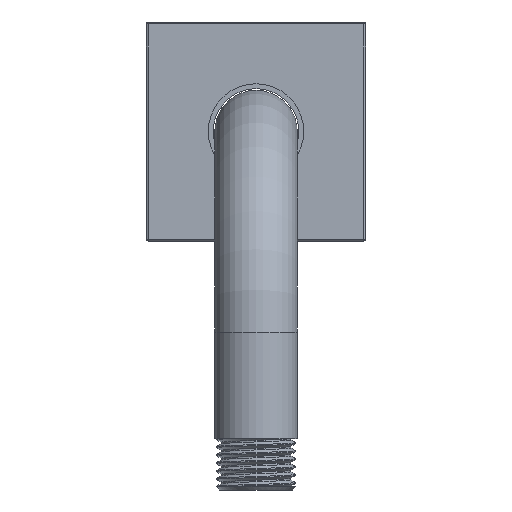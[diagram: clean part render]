
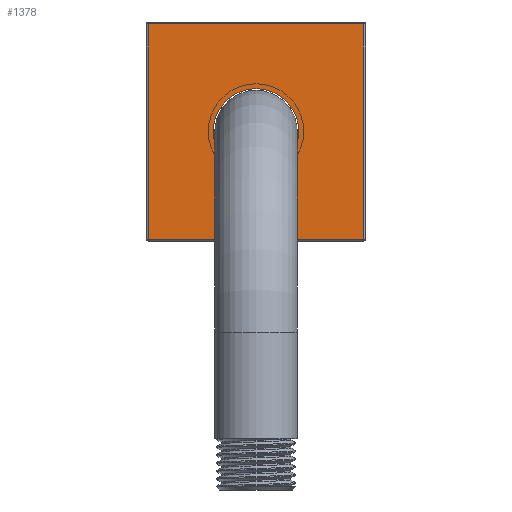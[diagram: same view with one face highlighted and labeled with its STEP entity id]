
A CAD part, front view. The second image highlights one B-rep face of the part: STEP entity #1378.
In plain terms, the highlighted planar face has unit normal (0, -1, 0).
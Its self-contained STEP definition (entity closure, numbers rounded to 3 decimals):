
#175=FACE_BOUND('',#277,.T.);
#188=FACE_OUTER_BOUND('',#276,.T.);
#276=EDGE_LOOP('',(#958,#959,#960,#961));
#277=EDGE_LOOP('',(#962,#963));
#366=LINE('',#2036,#432);
#367=LINE('',#2038,#433);
#368=LINE('',#2040,#434);
#369=LINE('',#2041,#435);
#432=VECTOR('',#1679,54.);
#433=VECTOR('',#1680,54.);
#434=VECTOR('',#1681,54.);
#435=VECTOR('',#1682,54.);
#508=CIRCLE('',#1494,10.75);
#509=CIRCLE('',#1495,10.75);
#578=VERTEX_POINT('',#2028);
#579=VERTEX_POINT('',#2030);
#580=VERTEX_POINT('',#2034);
#581=VERTEX_POINT('',#2035);
#582=VERTEX_POINT('',#2037);
#583=VERTEX_POINT('',#2039);
#725=EDGE_CURVE('',#578,#579,#508,.T.);
#726=EDGE_CURVE('',#579,#578,#509,.T.);
#727=EDGE_CURVE('',#580,#581,#366,.T.);
#728=EDGE_CURVE('',#581,#582,#367,.T.);
#729=EDGE_CURVE('',#582,#583,#368,.T.);
#730=EDGE_CURVE('',#583,#580,#369,.T.);
#958=ORIENTED_EDGE('',*,*,#727,.T.);
#959=ORIENTED_EDGE('',*,*,#728,.T.);
#960=ORIENTED_EDGE('',*,*,#729,.T.);
#961=ORIENTED_EDGE('',*,*,#730,.T.);
#962=ORIENTED_EDGE('',*,*,#726,.F.);
#963=ORIENTED_EDGE('',*,*,#725,.F.);
#1359=PLANE('',#1496);
#1378=ADVANCED_FACE('',(#188,#175),#1359,.T.);
#1494=AXIS2_PLACEMENT_3D('',#2031,#1673,#1674);
#1495=AXIS2_PLACEMENT_3D('',#2032,#1675,#1676);
#1496=AXIS2_PLACEMENT_3D('',#2033,#1677,#1678);
#1673=DIRECTION('center_axis',(0.,-1.,0.));
#1674=DIRECTION('ref_axis',(1.,0.,0.));
#1675=DIRECTION('center_axis',(0.,-1.,0.));
#1676=DIRECTION('ref_axis',(1.,0.,0.));
#1677=DIRECTION('center_axis',(0.,-1.,0.));
#1678=DIRECTION('ref_axis',(-1.,0.,0.));
#1679=DIRECTION('',(0.,0.,1.));
#1680=DIRECTION('',(-1.,0.,0.));
#1681=DIRECTION('',(0.,0.,-1.));
#1682=DIRECTION('',(1.,0.,0.));
#2028=CARTESIAN_POINT('',(112.75,-93.9,1117.57));
#2030=CARTESIAN_POINT('',(91.25,-93.9,1117.57));
#2031=CARTESIAN_POINT('Origin',(102.,-93.9,1117.57));
#2032=CARTESIAN_POINT('Origin',(102.,-93.9,1117.57));
#2033=CARTESIAN_POINT('Origin',(102.,-93.9,1117.57));
#2034=CARTESIAN_POINT('',(129.,-93.9,1090.57));
#2035=CARTESIAN_POINT('',(129.,-93.9,1144.57));
#2036=CARTESIAN_POINT('',(129.,-93.9,1090.57));
#2037=CARTESIAN_POINT('',(75.,-93.9,1144.57));
#2038=CARTESIAN_POINT('',(129.,-93.9,1144.57));
#2039=CARTESIAN_POINT('',(75.,-93.9,1090.57));
#2040=CARTESIAN_POINT('',(75.,-93.9,1144.57));
#2041=CARTESIAN_POINT('',(75.,-93.9,1090.57));
